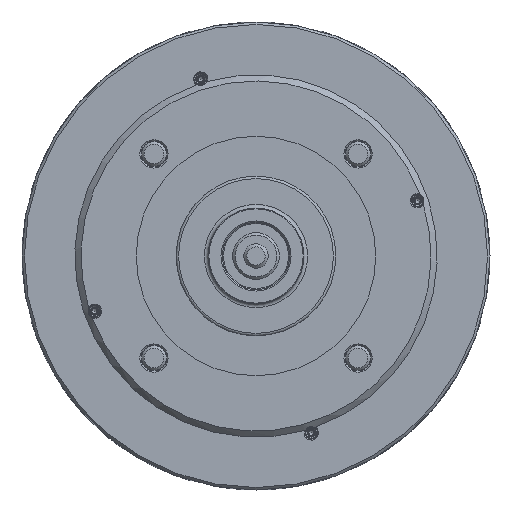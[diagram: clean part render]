
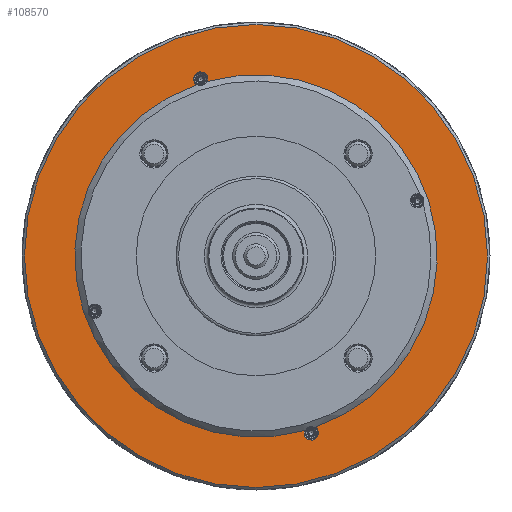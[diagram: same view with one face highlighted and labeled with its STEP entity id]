
A CAD part, left-side view. The second image highlights one B-rep face of the part: STEP entity #108570.
In plain terms, the highlighted planar face has unit normal (-1, 0, 0).
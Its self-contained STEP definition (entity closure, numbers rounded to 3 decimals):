
#1474 = PLANE ( 'NONE',  #126026 ) ;
#2096 = DIRECTION ( 'NONE',  ( 0., 0., -1. ) ) ;
#2506 = CARTESIAN_POINT ( 'NONE',  ( -130., -45., -144. ) ) ;
#3994 = ORIENTED_EDGE ( 'NONE', *, *, #114725, .T. ) ;
#6412 = EDGE_LOOP ( 'NONE', ( #61173 ) ) ;
#7959 = CARTESIAN_POINT ( 'NONE',  ( -130., 0., 0. ) ) ;
#7967 = CARTESIAN_POINT ( 'NONE',  ( -130., -48.544, -139.283 ) ) ;
#10344 = AXIS2_PLACEMENT_3D ( 'NONE', #49892, #87506, #49282 ) ;
#22179 = CIRCLE ( 'NONE', #50636, 188.5 ) ;
#23815 = CARTESIAN_POINT ( 'NONE',  ( -130., 48.544, 139.283 ) ) ;
#36503 = EDGE_LOOP ( 'NONE', ( #46288, #90197, #3994, #55817 ) ) ;
#36755 = VERTEX_POINT ( 'NONE', #23815 ) ;
#38877 = EDGE_CURVE ( 'NONE', #89053, #82127, #100835, .T. ) ;
#44128 = EDGE_CURVE ( 'NONE', #75590, #75590, #22179, .T. ) ;
#46288 = ORIENTED_EDGE ( 'NONE', *, *, #47541, .T. ) ;
#46850 = DIRECTION ( 'NONE',  ( 1., 0., 0. ) ) ;
#46946 = CARTESIAN_POINT ( 'NONE',  ( -130., 0., -188.5 ) ) ;
#47541 = EDGE_CURVE ( 'NONE', #121959, #89053, #107238, .T. ) ;
#49282 = DIRECTION ( 'NONE',  ( 0., 0., -1. ) ) ;
#49892 = CARTESIAN_POINT ( 'NONE',  ( -130., 0., 0. ) ) ;
#50636 = AXIS2_PLACEMENT_3D ( 'NONE', #7959, #46850, #123219 ) ;
#51008 = CIRCLE ( 'NONE', #10344, 147.5 ) ;
#51785 = FACE_BOUND ( 'NONE', #36503, .T. ) ;
#54246 = AXIS2_PLACEMENT_3D ( 'NONE', #106563, #116722, #78520 ) ;
#55773 = CARTESIAN_POINT ( 'NONE',  ( -130., 39.401, 142.14 ) ) ;
#55817 = ORIENTED_EDGE ( 'NONE', *, *, #69264, .T. ) ;
#61173 = ORIENTED_EDGE ( 'NONE', *, *, #44128, .F. ) ;
#62400 = DIRECTION ( 'NONE',  ( 0., 0., -1. ) ) ;
#69264 = EDGE_CURVE ( 'NONE', #36755, #121959, #121315, .T. ) ;
#71295 = DIRECTION ( 'NONE',  ( 1., 0., 0. ) ) ;
#73842 = DIRECTION ( 'NONE',  ( 1., 0., 0. ) ) ;
#75010 = CARTESIAN_POINT ( 'NONE',  ( -130., -39.401, -142.14 ) ) ;
#75590 = VERTEX_POINT ( 'NONE', #46946 ) ;
#78520 = DIRECTION ( 'NONE',  ( 0., 0., -1. ) ) ;
#79224 = CARTESIAN_POINT ( 'NONE',  ( -130., -147.5, 0. ) ) ;
#82127 = VERTEX_POINT ( 'NONE', #75010 ) ;
#87506 = DIRECTION ( 'NONE',  ( 1., 0., 0. ) ) ;
#88752 = FACE_OUTER_BOUND ( 'NONE', #6412, .T. ) ;
#89053 = VERTEX_POINT ( 'NONE', #7967 ) ;
#90197 = ORIENTED_EDGE ( 'NONE', *, *, #38877, .T. ) ;
#94214 = DIRECTION ( 'NONE',  ( 0., 0., -1. ) ) ;
#100835 = CIRCLE ( 'NONE', #111113, 5.9 ) ;
#106563 = CARTESIAN_POINT ( 'NONE',  ( -130., 45., 144. ) ) ;
#107238 = CIRCLE ( 'NONE', #115388, 147.5 ) ;
#108570 = ADVANCED_FACE ( 'NONE', ( #88752, #51785 ), #1474, .F. ) ;
#111113 = AXIS2_PLACEMENT_3D ( 'NONE', #2506, #71295, #62400 ) ;
#112686 = CARTESIAN_POINT ( 'NONE',  ( -130., 0., 0. ) ) ;
#114725 = EDGE_CURVE ( 'NONE', #82127, #36755, #51008, .T. ) ;
#115388 = AXIS2_PLACEMENT_3D ( 'NONE', #112686, #73842, #94214 ) ;
#116722 = DIRECTION ( 'NONE',  ( 1., 0., 0. ) ) ;
#118032 = DIRECTION ( 'NONE',  ( 1., 0., 0. ) ) ;
#121315 = CIRCLE ( 'NONE', #54246, 5.9 ) ;
#121959 = VERTEX_POINT ( 'NONE', #55773 ) ;
#123219 = DIRECTION ( 'NONE',  ( 0., 0., -1. ) ) ;
#126026 = AXIS2_PLACEMENT_3D ( 'NONE', #79224, #118032, #2096 ) ;
